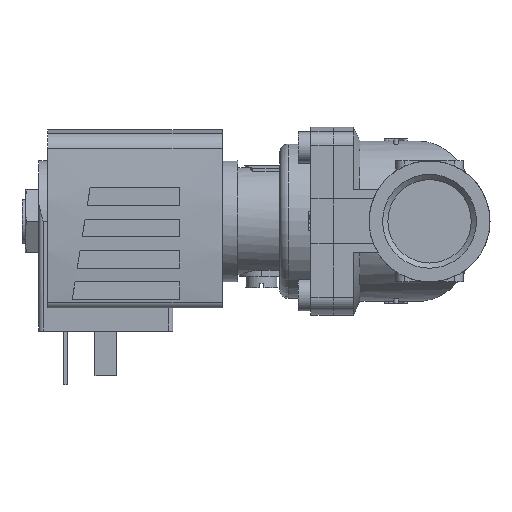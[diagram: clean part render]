
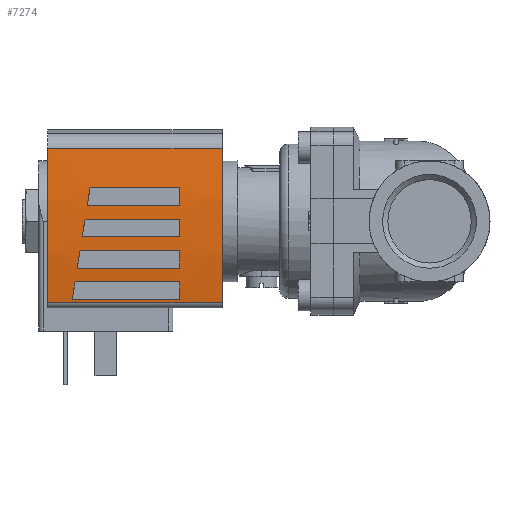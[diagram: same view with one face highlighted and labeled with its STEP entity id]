
A CAD part, left-side view. The second image highlights one B-rep face of the part: STEP entity #7274.
In plain terms, the highlighted cylindrical face has radius 130 mm (diameter 260 mm), a partial arc.
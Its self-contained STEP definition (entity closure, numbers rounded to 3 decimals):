
#86=ELLIPSE('',#7870,131.653,130.);
#87=ELLIPSE('',#7872,131.653,130.);
#88=ELLIPSE('',#7875,131.653,130.);
#89=ELLIPSE('',#7877,131.653,130.);
#814=LINE('',#11385,#1344);
#816=LINE('',#11405,#1346);
#817=LINE('',#11409,#1347);
#818=LINE('',#11410,#1348);
#819=LINE('',#11415,#1349);
#820=LINE('',#11420,#1350);
#821=LINE('',#11424,#1351);
#822=LINE('',#11428,#1352);
#823=LINE('',#11432,#1353);
#824=LINE('',#11436,#1354);
#1344=VECTOR('',#9369,1000.);
#1346=VECTOR('',#9391,1000.);
#1347=VECTOR('',#9394,1000.);
#1348=VECTOR('',#9395,1000.);
#1349=VECTOR('',#9398,1000.);
#1350=VECTOR('',#9403,1000.);
#1351=VECTOR('',#9406,1000.);
#1352=VECTOR('',#9409,1000.);
#1353=VECTOR('',#9412,1000.);
#1354=VECTOR('',#9415,1000.);
#2810=ORIENTED_EDGE('',*,*,#3888,.F.);
#2811=ORIENTED_EDGE('',*,*,#3889,.F.);
#2812=ORIENTED_EDGE('',*,*,#3890,.F.);
#2813=ORIENTED_EDGE('',*,*,#3891,.F.);
#2814=ORIENTED_EDGE('',*,*,#3892,.F.);
#2815=ORIENTED_EDGE('',*,*,#3893,.F.);
#2816=ORIENTED_EDGE('',*,*,#3894,.F.);
#2817=ORIENTED_EDGE('',*,*,#3895,.F.);
#2818=ORIENTED_EDGE('',*,*,#3896,.T.);
#2819=ORIENTED_EDGE('',*,*,#3897,.F.);
#2820=ORIENTED_EDGE('',*,*,#3882,.F.);
#2821=ORIENTED_EDGE('',*,*,#3879,.T.);
#2822=ORIENTED_EDGE('',*,*,#3898,.F.);
#2823=ORIENTED_EDGE('',*,*,#3899,.F.);
#2824=ORIENTED_EDGE('',*,*,#3900,.F.);
#2825=ORIENTED_EDGE('',*,*,#3901,.F.);
#2826=ORIENTED_EDGE('',*,*,#3902,.F.);
#2827=ORIENTED_EDGE('',*,*,#3903,.F.);
#2828=ORIENTED_EDGE('',*,*,#3904,.F.);
#2829=ORIENTED_EDGE('',*,*,#3905,.F.);
#3879=EDGE_CURVE('',#4524,#4523,#814,.T.);
#3882=EDGE_CURVE('',#4524,#4526,#4819,.T.);
#3888=EDGE_CURVE('',#4530,#4531,#86,.T.);
#3889=EDGE_CURVE('',#4532,#4530,#816,.F.);
#3890=EDGE_CURVE('',#4533,#4532,#4824,.T.);
#3891=EDGE_CURVE('',#4531,#4533,#817,.T.);
#3892=EDGE_CURVE('',#4534,#4535,#818,.T.);
#3893=EDGE_CURVE('',#4536,#4534,#87,.T.);
#3894=EDGE_CURVE('',#4537,#4536,#819,.F.);
#3895=EDGE_CURVE('',#4535,#4537,#4825,.T.);
#3896=EDGE_CURVE('',#4523,#4538,#4826,.T.);
#3897=EDGE_CURVE('',#4526,#4538,#820,.T.);
#3898=EDGE_CURVE('',#4539,#4540,#88,.T.);
#3899=EDGE_CURVE('',#4541,#4539,#821,.F.);
#3900=EDGE_CURVE('',#4542,#4541,#4827,.T.);
#3901=EDGE_CURVE('',#4540,#4542,#822,.T.);
#3902=EDGE_CURVE('',#4543,#4544,#89,.T.);
#3903=EDGE_CURVE('',#4545,#4543,#823,.F.);
#3904=EDGE_CURVE('',#4546,#4545,#4828,.T.);
#3905=EDGE_CURVE('',#4544,#4546,#824,.T.);
#4523=VERTEX_POINT('',#11384);
#4524=VERTEX_POINT('',#11386);
#4526=VERTEX_POINT('',#11392);
#4530=VERTEX_POINT('',#11403);
#4531=VERTEX_POINT('',#11404);
#4532=VERTEX_POINT('',#11406);
#4533=VERTEX_POINT('',#11408);
#4534=VERTEX_POINT('',#11411);
#4535=VERTEX_POINT('',#11412);
#4536=VERTEX_POINT('',#11414);
#4537=VERTEX_POINT('',#11416);
#4538=VERTEX_POINT('',#11419);
#4539=VERTEX_POINT('',#11422);
#4540=VERTEX_POINT('',#11423);
#4541=VERTEX_POINT('',#11425);
#4542=VERTEX_POINT('',#11427);
#4543=VERTEX_POINT('',#11430);
#4544=VERTEX_POINT('',#11431);
#4545=VERTEX_POINT('',#11433);
#4546=VERTEX_POINT('',#11435);
#4819=CIRCLE('',#7864,130.);
#4824=CIRCLE('',#7871,130.);
#4825=CIRCLE('',#7873,130.);
#4826=CIRCLE('',#7874,130.);
#4827=CIRCLE('',#7876,130.);
#4828=CIRCLE('',#7878,130.);
#5148=EDGE_LOOP('',(#2810,#2811,#2812,#2813));
#5149=EDGE_LOOP('',(#2814,#2815,#2816,#2817));
#5150=EDGE_LOOP('',(#2818,#2819,#2820,#2821));
#5151=EDGE_LOOP('',(#2822,#2823,#2824,#2825));
#5152=EDGE_LOOP('',(#2826,#2827,#2828,#2829));
#5546=FACE_BOUND('',#5148,.T.);
#5547=FACE_BOUND('',#5149,.T.);
#5548=FACE_BOUND('',#5150,.T.);
#5549=FACE_BOUND('',#5151,.T.);
#5550=FACE_BOUND('',#5152,.T.);
#5725=CYLINDRICAL_SURFACE('',#7869,130.);
#7274=ADVANCED_FACE('',(#5546,#5547,#5548,#5549,#5550),#5725,.T.);
#7864=AXIS2_PLACEMENT_3D('',#11391,#9376,#9377);
#7869=AXIS2_PLACEMENT_3D('',#11401,#9387,#9388);
#7870=AXIS2_PLACEMENT_3D('',#11402,#9389,#9390);
#7871=AXIS2_PLACEMENT_3D('',#11407,#9392,#9393);
#7872=AXIS2_PLACEMENT_3D('',#11413,#9396,#9397);
#7873=AXIS2_PLACEMENT_3D('',#11417,#9399,#9400);
#7874=AXIS2_PLACEMENT_3D('',#11418,#9401,#9402);
#7875=AXIS2_PLACEMENT_3D('',#11421,#9404,#9405);
#7876=AXIS2_PLACEMENT_3D('',#11426,#9407,#9408);
#7877=AXIS2_PLACEMENT_3D('',#11429,#9410,#9411);
#7878=AXIS2_PLACEMENT_3D('',#11434,#9413,#9414);
#9369=DIRECTION('',(0.,-1.,0.));
#9376=DIRECTION('',(0.,1.,0.));
#9377=DIRECTION('',(1.,0.,0.));
#9387=DIRECTION('',(0.,-1.,0.));
#9388=DIRECTION('',(0.,0.,-1.));
#9389=DIRECTION('',(-0.158,-0.987,0.));
#9390=DIRECTION('',(0.987,-0.158,0.));
#9391=DIRECTION('',(0.,-1.,0.));
#9392=DIRECTION('',(0.,1.,0.));
#9393=DIRECTION('',(0.,0.,1.));
#9394=DIRECTION('',(0.,-1.,0.));
#9395=DIRECTION('',(0.,-1.,0.));
#9396=DIRECTION('',(-0.158,-0.987,0.));
#9397=DIRECTION('',(0.987,-0.158,0.));
#9398=DIRECTION('',(0.,-1.,0.));
#9399=DIRECTION('',(0.,1.,0.));
#9400=DIRECTION('',(0.,0.,1.));
#9401=DIRECTION('',(0.,1.,0.));
#9402=DIRECTION('',(1.,0.,0.));
#9403=DIRECTION('',(0.,-1.,0.));
#9404=DIRECTION('',(-0.158,-0.987,0.));
#9405=DIRECTION('',(0.987,-0.158,0.));
#9406=DIRECTION('',(0.,-1.,0.));
#9407=DIRECTION('',(0.,1.,0.));
#9408=DIRECTION('',(0.,0.,1.));
#9409=DIRECTION('',(0.,-1.,0.));
#9410=DIRECTION('',(-0.158,-0.987,0.));
#9411=DIRECTION('',(0.987,-0.158,0.));
#9412=DIRECTION('',(0.,-1.,0.));
#9413=DIRECTION('',(0.,1.,0.));
#9414=DIRECTION('',(0.,0.,1.));
#9415=DIRECTION('',(0.,-1.,0.));
#11384=CARTESIAN_POINT('',(-18.071,-26.,14.738));
#11385=CARTESIAN_POINT('',(-18.071,13.,14.738));
#11386=CARTESIAN_POINT('',(-18.071,13.,14.738));
#11391=CARTESIAN_POINT('',(0.,13.,-114.));
#11392=CARTESIAN_POINT('',(16.195,13.,14.987));
#11401=CARTESIAN_POINT('',(0.,13.,-114.));
#11402=CARTESIAN_POINT('',(0.,4.7,-114.));
#11403=CARTESIAN_POINT('',(0.5,4.62,15.999));
#11404=CARTESIAN_POINT('',(-3.5,5.26,15.953));
#11405=CARTESIAN_POINT('',(0.5,13.,15.999));
#11406=CARTESIAN_POINT('',(0.5,-16.5,15.999));
#11407=CARTESIAN_POINT('',(0.,-16.5,-114.));
#11408=CARTESIAN_POINT('',(-3.5,-16.5,15.953));
#11409=CARTESIAN_POINT('',(-3.5,13.,15.953));
#11410=CARTESIAN_POINT('',(-17.5,13.,14.817));
#11411=CARTESIAN_POINT('',(-17.5,7.5,14.817));
#11412=CARTESIAN_POINT('',(-17.5,-16.5,14.817));
#11413=CARTESIAN_POINT('',(0.,4.7,-114.));
#11414=CARTESIAN_POINT('',(-13.5,6.86,15.297));
#11415=CARTESIAN_POINT('',(-13.5,13.,15.297));
#11416=CARTESIAN_POINT('',(-13.5,-16.5,15.297));
#11417=CARTESIAN_POINT('',(0.,-16.5,-114.));
#11418=CARTESIAN_POINT('',(0.,-26.,-114.));
#11419=CARTESIAN_POINT('',(16.195,-26.,14.987));
#11420=CARTESIAN_POINT('',(16.195,13.,14.987));
#11421=CARTESIAN_POINT('',(0.,4.7,-114.));
#11422=CARTESIAN_POINT('',(-6.5,5.74,15.837));
#11423=CARTESIAN_POINT('',(-10.5,6.38,15.575));
#11424=CARTESIAN_POINT('',(-6.5,13.,15.837));
#11425=CARTESIAN_POINT('',(-6.5,-16.5,15.837));
#11426=CARTESIAN_POINT('',(0.,-16.5,-114.));
#11427=CARTESIAN_POINT('',(-10.5,-16.5,15.575));
#11428=CARTESIAN_POINT('',(-10.5,13.,15.575));
#11429=CARTESIAN_POINT('',(0.,4.7,-114.));
#11430=CARTESIAN_POINT('',(7.5,3.5,15.783));
#11431=CARTESIAN_POINT('',(3.5,4.14,15.953));
#11432=CARTESIAN_POINT('',(7.5,13.,15.783));
#11433=CARTESIAN_POINT('',(7.5,-16.5,15.783));
#11434=CARTESIAN_POINT('',(0.,-16.5,-114.));
#11435=CARTESIAN_POINT('',(3.5,-16.5,15.953));
#11436=CARTESIAN_POINT('',(3.5,13.,15.953));
